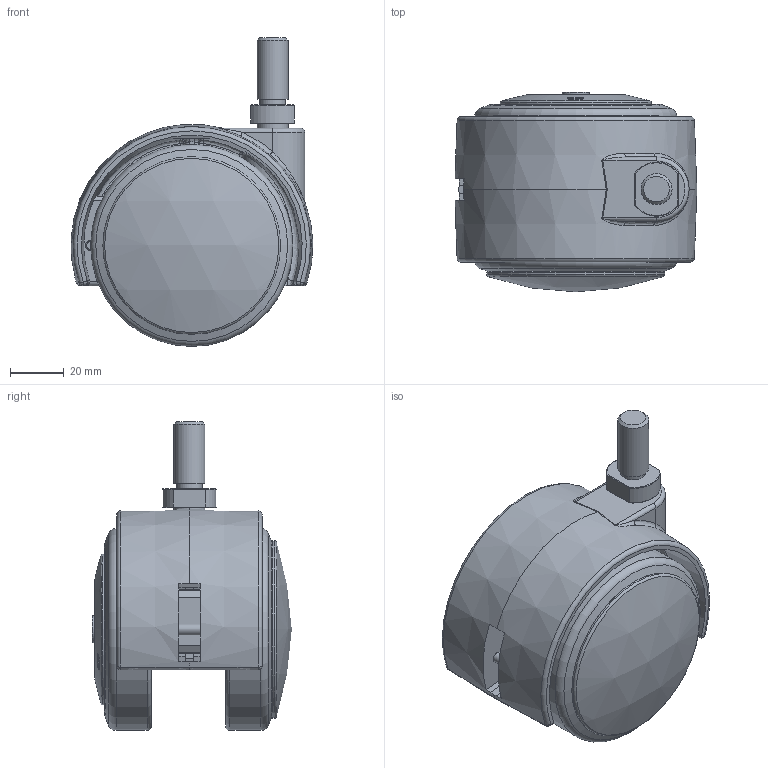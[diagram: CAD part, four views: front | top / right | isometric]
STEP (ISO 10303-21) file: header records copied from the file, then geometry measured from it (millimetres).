
FILE_DESCRIPTION((''),'2;1');
FILE_NAME('C:\Documents and Settings\Administrator\바탕 화면\3D STEP\GDD-SERIES\GDD-75A-SS\GDD-75A-SS.stp','2010-12-27T11:43:57',('Administrator'),(''),'Autodesk Inventor 2009','Autodesk Inventor 2009','');
FILE_SCHEMA(('AUTOMOTIVE_DESIGN { 1 0 10303 214 1 1 1 1 }'));
Length unit declared in the file: millimetre
Products named in the file (1): GDD-75A-SS
Bounding box: 89.76 x 74.08 x 114.7 mm (x, y, z)
Volume: 172620.8 mm3; surface area: 73465.1 mm2
Topology: 5 solids, 5 shells, 760 faces, 1940 edges, 1192 vertices
Faces by surface type: cylinder 283, plane 239, bspline 153, torus 45, sphere 24, cone 16
Full cylindrical faces by diameter (mm): 4 x3, 4.7 x1, 7.2 x1, 8 x1, 9 x1, 9.5 x1, 10 x2, 11.5 x3, 12 x3, 21.985 x1, 22 x3, 30 x2, 55 x1, 56 x1, 62 x2, 65 x3, 66 x1, 75 x2
Entity records: 30872 total; most frequent: CARTESIAN_POINT 13492, ORIENTED_EDGE 3638, DIRECTION 3565, EDGE_CURVE 1819, AXIS2_PLACEMENT_3D 1423, VERTEX_POINT 1163, EDGE_LOOP 870, CIRCLE 789
